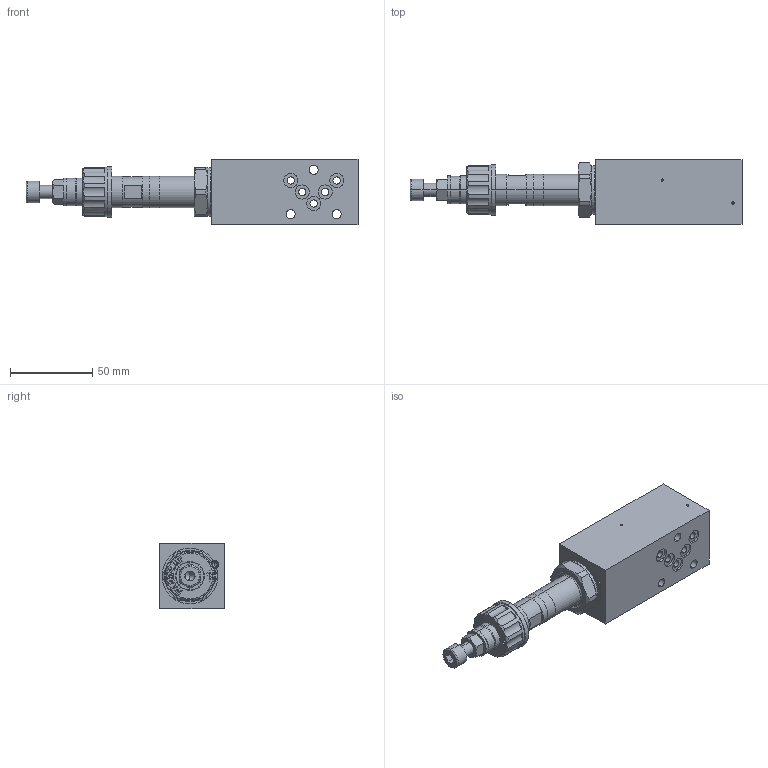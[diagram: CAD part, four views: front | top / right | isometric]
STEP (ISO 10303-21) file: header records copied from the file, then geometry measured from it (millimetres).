
FILE_DESCRIPTION (( 'STEP AP214' ), '1' );
FILE_NAME ('B.ISA04-A.STEP', '2017-03-23T14:57:49', ( '' ), ( '' ), 'SwSTEP 2.0', 'SolidWorks 2016', '' );
FILE_SCHEMA (( 'AUTOMOTIVE_DESIGN' ));
Length unit declared in the file: millimetre
Products named in the file (1): B.ISA04-A
Bounding box: 202.3 x 39.5 x 40 mm (x, y, z)
Volume: 172726 mm3; surface area: 33316.7 mm2
Topology: 2 solids, 3 shells, 398 faces, 986 edges, 624 vertices
Faces by surface type: plane 194, cylinder 102, cone 62, bspline 22, torus 14, sphere 4
Entity records: 17379 total; most frequent: CARTESIAN_POINT 3541, ORIENTED_EDGE 1956, DIRECTION 1941, EDGE_CURVE 978, AXIS2_PLACEMENT_3D 702, VERTEX_POINT 624, VECTOR 537, LINE 537
